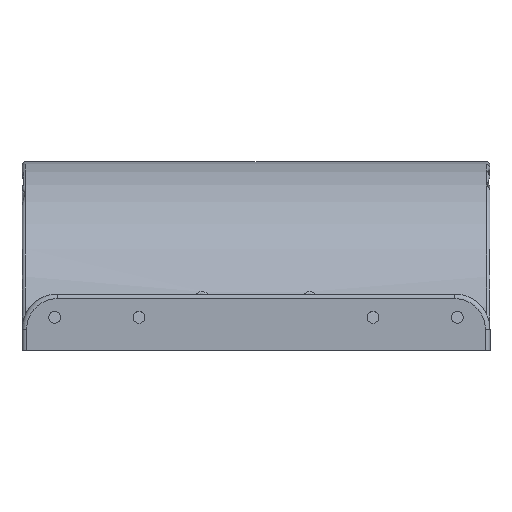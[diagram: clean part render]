
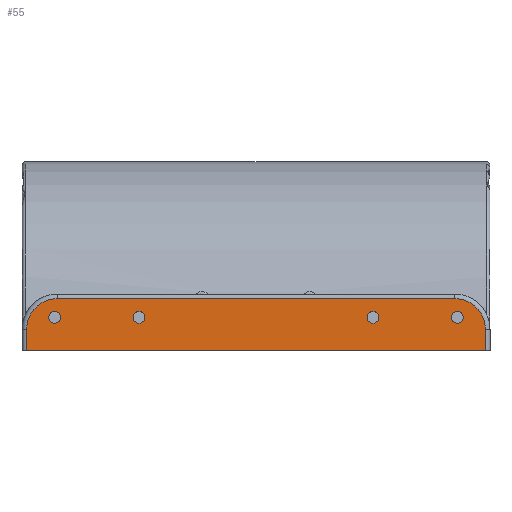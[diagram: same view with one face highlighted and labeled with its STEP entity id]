
A CAD part, left-side view. The second image highlights one B-rep face of the part: STEP entity #55.
In plain terms, the highlighted planar face has unit normal (-1, 0, 0).
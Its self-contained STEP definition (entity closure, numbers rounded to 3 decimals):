
#55=ADVANCED_FACE('',(#243,#245,#247,#249,#251),#253,.T.);
#243=FACE_BOUND('',#244,.T.);
#244=EDGE_LOOP('',(#2813,#2814,#2815,#2816,#2817,#2818));
#245=FACE_BOUND('',#246,.T.);
#246=EDGE_LOOP('',(#2819));
#247=FACE_BOUND('',#248,.T.);
#248=EDGE_LOOP('',(#2820));
#249=FACE_BOUND('',#250,.T.);
#250=EDGE_LOOP('',(#2821));
#251=FACE_BOUND('',#252,.T.);
#252=EDGE_LOOP('',(#2822));
#253=PLANE('',#254);
#254=AXIS2_PLACEMENT_3D('',#255,#256,#257);
#255=CARTESIAN_POINT('',(-109.5,0.,0.));
#256=DIRECTION('',(-1.,0.,0.));
#257=DIRECTION('',(0.,0.,1.));
#2813=ORIENTED_EDGE('',*,*,#3560,.T.);
#2814=ORIENTED_EDGE('',*,*,#3561,.F.);
#2815=ORIENTED_EDGE('',*,*,#3562,.T.);
#2816=ORIENTED_EDGE('',*,*,#3563,.F.);
#2817=ORIENTED_EDGE('',*,*,#3564,.F.);
#2818=ORIENTED_EDGE('',*,*,#3522,.F.);
#2819=ORIENTED_EDGE('',*,*,#3565,.T.);
#2820=ORIENTED_EDGE('',*,*,#3566,.T.);
#2821=ORIENTED_EDGE('',*,*,#3567,.T.);
#2822=ORIENTED_EDGE('',*,*,#3568,.T.);
#3522=EDGE_CURVE('',#3906,#3909,#3910,.T.);
#3560=EDGE_CURVE('',#3906,#3979,#3980,.T.);
#3561=EDGE_CURVE('',#3981,#3979,#3982,.F.);
#3562=EDGE_CURVE('',#3981,#3983,#3984,.T.);
#3563=EDGE_CURVE('',#3985,#3983,#3986,.F.);
#3564=EDGE_CURVE('',#3909,#3985,#3987,.T.);
#3565=EDGE_CURVE('',#3988,#3988,#3989,.F.);
#3566=EDGE_CURVE('',#3990,#3990,#3991,.F.);
#3567=EDGE_CURVE('',#3992,#3992,#3993,.F.);
#3568=EDGE_CURVE('',#3994,#3994,#3995,.F.);
#3906=VERTEX_POINT('',#4552);
#3909=VERTEX_POINT('',#4558);
#3910=LINE('',#4559,#4560);
#3979=VERTEX_POINT('',#4722);
#3980=LINE('',#4723,#4724);
#3981=VERTEX_POINT('',#4726);
#3982=CIRCLE('',#4727,13.);
#3983=VERTEX_POINT('',#4731);
#3984=LINE('',#4732,#4733);
#3985=VERTEX_POINT('',#4735);
#3986=CIRCLE('',#4736,13.);
#3987=LINE('',#4740,#4741);
#3988=VERTEX_POINT('',#4743);
#3989=CIRCLE('',#4744,2.5);
#3990=VERTEX_POINT('',#4748);
#3991=CIRCLE('',#4749,2.5);
#3992=VERTEX_POINT('',#4753);
#3993=CIRCLE('',#4754,2.5);
#3994=VERTEX_POINT('',#4758);
#3995=CIRCLE('',#4759,2.5);
#4552=CARTESIAN_POINT('',(-109.5,2.,0.));
#4558=CARTESIAN_POINT('',(-109.5,198.,0.));
#4559=CARTESIAN_POINT('',(-109.5,2.,0.));
#4560=VECTOR('',#4561,1.);
#4561=DIRECTION('',(0.,1.,0.));
#4722=CARTESIAN_POINT('',(-109.5,2.,9.));
#4723=CARTESIAN_POINT('',(-109.5,2.,0.));
#4724=VECTOR('',#4725,1.);
#4725=DIRECTION('',(0.,0.,1.));
#4726=CARTESIAN_POINT('',(-109.5,15.,22.));
#4727=AXIS2_PLACEMENT_3D('',#4728,#4729,#4730);
#4728=CARTESIAN_POINT('',(-109.5,15.,9.));
#4729=DIRECTION('',(-1.,0.,0.));
#4730=DIRECTION('',(0.,-1.,0.));
#4731=CARTESIAN_POINT('',(-109.5,185.,22.));
#4732=CARTESIAN_POINT('',(-109.5,15.,22.));
#4733=VECTOR('',#4734,1.);
#4734=DIRECTION('',(0.,1.,0.));
#4735=CARTESIAN_POINT('',(-109.5,198.,9.));
#4736=AXIS2_PLACEMENT_3D('',#4737,#4738,#4739);
#4737=CARTESIAN_POINT('',(-109.5,185.,9.));
#4738=DIRECTION('',(-1.,0.,0.));
#4739=DIRECTION('',(0.,0.,1.));
#4740=CARTESIAN_POINT('',(-109.5,198.,0.));
#4741=VECTOR('',#4742,1.);
#4742=DIRECTION('',(0.,0.,1.));
#4743=CARTESIAN_POINT('',(-109.5,11.5,14.));
#4744=AXIS2_PLACEMENT_3D('',#4745,#4746,#4747);
#4745=CARTESIAN_POINT('',(-109.5,14.,14.));
#4746=DIRECTION('',(-1.,0.,0.));
#4747=DIRECTION('',(0.,-1.,0.));
#4748=CARTESIAN_POINT('',(-109.5,147.5,14.));
#4749=AXIS2_PLACEMENT_3D('',#4750,#4751,#4752);
#4750=CARTESIAN_POINT('',(-109.5,150.,14.));
#4751=DIRECTION('',(-1.,0.,0.));
#4752=DIRECTION('',(0.,-1.,0.));
#4753=CARTESIAN_POINT('',(-109.5,183.5,14.));
#4754=AXIS2_PLACEMENT_3D('',#4755,#4756,#4757);
#4755=CARTESIAN_POINT('',(-109.5,186.,14.));
#4756=DIRECTION('',(-1.,0.,0.));
#4757=DIRECTION('',(0.,-1.,0.));
#4758=CARTESIAN_POINT('',(-109.5,47.5,14.));
#4759=AXIS2_PLACEMENT_3D('',#4760,#4761,#4762);
#4760=CARTESIAN_POINT('',(-109.5,50.,14.));
#4761=DIRECTION('',(-1.,0.,0.));
#4762=DIRECTION('',(0.,-1.,0.));
